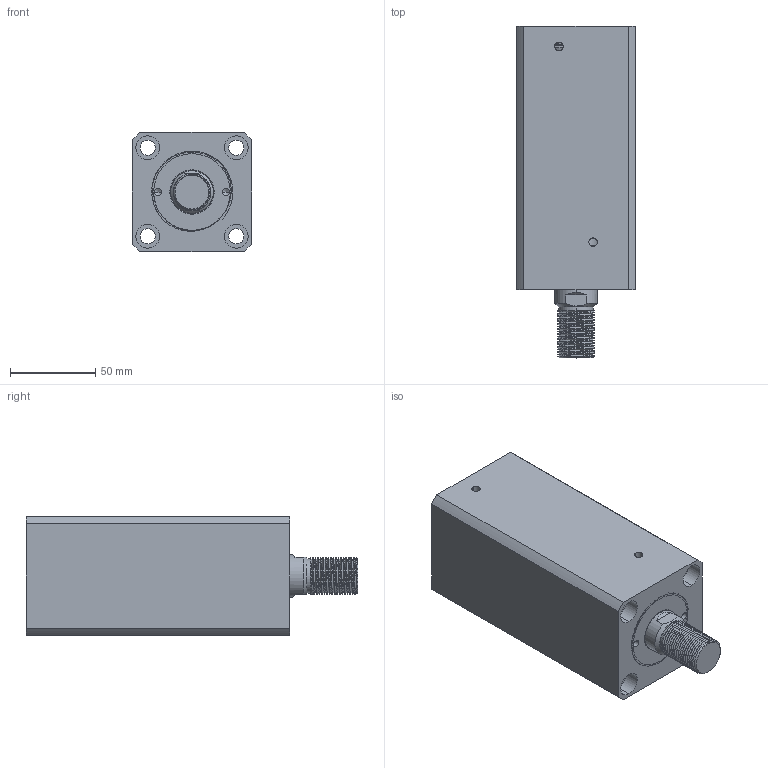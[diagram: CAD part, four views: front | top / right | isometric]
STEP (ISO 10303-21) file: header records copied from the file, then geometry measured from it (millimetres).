
FILE_DESCRIPTION (( 'STEP AP214' ), '1' );
FILE_NAME ('chtb-sdmb40x100w_asm.STEP', '2018-06-07T01:06:46', ( 'Windows' ), ( 'Microsoft' ), 'SwSTEP 2.0', 'SolidWorks 2015', '' );
FILE_SCHEMA (( 'AUTOMOTIVE_DESIGN' ));
Length unit declared in the file: millimetre
Products named in the file (4): CHTB-SD40QG; CHTB-SDMB40X100NBT; CHTB-SD40X100WHSG; chtb-sdmb40x100w_asm
Assembly tree (3 placements, depth 2):
  chtb-sdmb40x100w_asm
    CHTB-SD40X100WHSG
    CHTB-SDMB40X100NBT
    CHTB-SD40QG
Bounding box: 70 x 195 x 70 mm (x, y, z)
Volume: 638275.5 mm3; surface area: 122710.7 mm2
Topology: 3 solids, 4 shells, 201 faces, 539 edges, 359 vertices
Faces by surface type: cylinder 122, plane 38, bspline 16, torus 14, cone 11
Entity records: 13455 total; most frequent: CARTESIAN_POINT 8586, ORIENTED_EDGE 1066, DIRECTION 904, EDGE_CURVE 533, AXIS2_PLACEMENT_3D 374, VERTEX_POINT 359, EDGE_LOOP 238, ADVANCED_FACE 201
